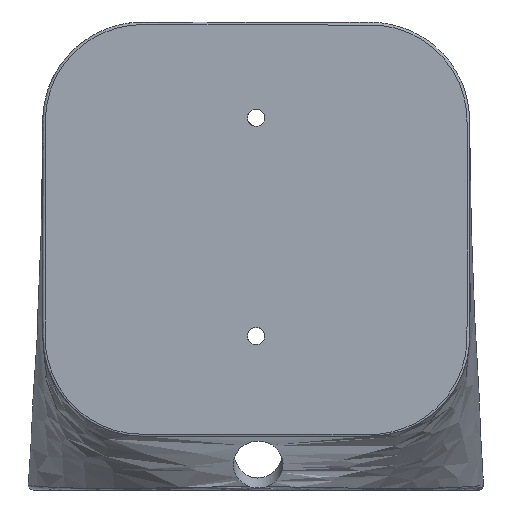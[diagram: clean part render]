
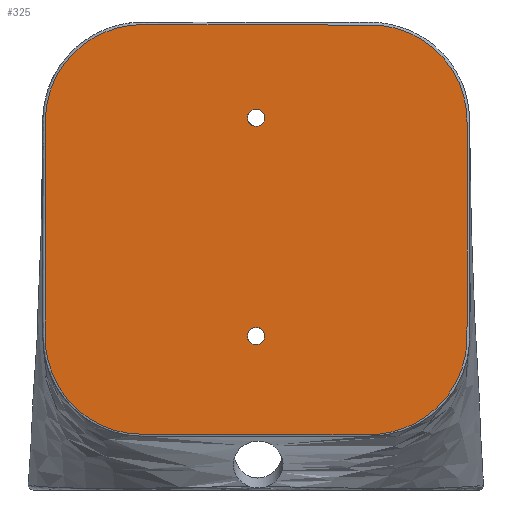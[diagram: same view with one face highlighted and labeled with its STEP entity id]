
A CAD part, front view. The second image highlights one B-rep face of the part: STEP entity #325.
In plain terms, the highlighted planar face has unit normal (0, -1, 0).
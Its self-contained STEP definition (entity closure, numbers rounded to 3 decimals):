
#20=FACE_BOUND('',#49,.T.);
#21=FACE_BOUND('',#50,.T.);
#28=PLANE('',#341);
#34=FACE_OUTER_BOUND('',#48,.T.);
#48=EDGE_LOOP('',(#260));
#49=EDGE_LOOP('',(#261));
#50=EDGE_LOOP('',(#262));
#86=B_SPLINE_CURVE_WITH_KNOTS('',3,(#850,#851,#852,#853,#854,#855,#856,
#857,#858,#859,#860,#861,#862,#863,#864,#865,#866,#867,#868,#869,#870,#871,
#872,#873,#874,#875,#876,#877,#878,#879,#880,#881,#882,#883,#884,#885,#886,
#887,#888),.UNSPECIFIED.,.T.,.F.,(4,2,1,1,2,1,2,1,1,2,1,1,1,1,1,2,1,1,1,
2,1,2,1,1,1,1,1,2,4),(-1.068,-0.995,-0.966,
-0.937,-0.893,-0.807,-0.742,
-0.713,-0.684,-0.641,-0.627,
-0.548,-0.529,-0.52,-0.508,
-0.498,-0.469,-0.441,-0.436,
-0.398,-0.268,-0.247,-0.232,
-0.207,-0.189,-0.159,-0.153,
-0.146,-0.073),.UNSPECIFIED.);
#117=CIRCLE('',#342,1.75);
#118=CIRCLE('',#343,1.75);
#123=VERTEX_POINT('',#629);
#153=VERTEX_POINT('',#1435);
#154=VERTEX_POINT('',#1437);
#174=EDGE_CURVE('',#123,#123,#86,.T.);
#197=EDGE_CURVE('',#153,#153,#117,.T.);
#198=EDGE_CURVE('',#154,#154,#118,.T.);
#260=ORIENTED_EDGE('',*,*,#174,.F.);
#261=ORIENTED_EDGE('',*,*,#197,.T.);
#262=ORIENTED_EDGE('',*,*,#198,.T.);
#325=ADVANCED_FACE('',(#34,#20,#21),#28,.F.);
#341=AXIS2_PLACEMENT_3D('',#1434,#364,#365);
#342=AXIS2_PLACEMENT_3D('',#1436,#366,#367);
#343=AXIS2_PLACEMENT_3D('',#1438,#368,#369);
#364=DIRECTION('center_axis',(0.,1.,0.));
#365=DIRECTION('ref_axis',(0.,0.,1.));
#366=DIRECTION('center_axis',(0.,1.,0.));
#367=DIRECTION('ref_axis',(1.,0.,0.));
#368=DIRECTION('center_axis',(0.,1.,0.));
#369=DIRECTION('ref_axis',(1.,0.,0.));
#629=CARTESIAN_POINT('',(0.515,0.,74.425));
#850=CARTESIAN_POINT('Ctrl Pts',(0.47,0.,
52.456));
#851=CARTESIAN_POINT('Ctrl Pts',(0.476,0.,
59.779));
#852=CARTESIAN_POINT('Ctrl Pts',(0.497,0.,
67.101));
#853=CARTESIAN_POINT('Ctrl Pts',(0.515,0.,
77.314));
#854=CARTESIAN_POINT('Ctrl Pts',(1.885,0.,
83.119));
#855=CARTESIAN_POINT('Ctrl Pts',(8.457,0.,91.211));
#856=CARTESIAN_POINT('Ctrl Pts',(15.669,0.,93.762));
#857=CARTESIAN_POINT('Ctrl Pts',(28.705,0.,
93.793));
#858=CARTESIAN_POINT('Ctrl Pts',(43.995,0.,
93.818));
#859=CARTESIAN_POINT('Ctrl Pts',(59.314,0.,
93.779));
#860=CARTESIAN_POINT('Ctrl Pts',(68.852,0.,
93.747));
#861=CARTESIAN_POINT('Ctrl Pts',(74.657,0.,
92.417));
#862=CARTESIAN_POINT('Ctrl Pts',(82.852,0.,
85.998));
#863=CARTESIAN_POINT('Ctrl Pts',(85.504,0.,78.784));
#864=CARTESIAN_POINT('Ctrl Pts',(85.495,0.,
72.99));
#865=CARTESIAN_POINT('Ctrl Pts',(85.519,0.,
63.47));
#866=CARTESIAN_POINT('Ctrl Pts',(85.541,0.,
51.985));
#867=CARTESIAN_POINT('Ctrl Pts',(85.52,0.,
41.026));
#868=CARTESIAN_POINT('Ctrl Pts',(85.506,0.,
36.918));
#869=CARTESIAN_POINT('Ctrl Pts',(85.491,0.,33.757));
#870=CARTESIAN_POINT('Ctrl Pts',(85.472,0.,
31.469));
#871=CARTESIAN_POINT('Ctrl Pts',(85.453,0.,
27.594));
#872=CARTESIAN_POINT('Ctrl Pts',(84.064,0.,
21.797));
#873=CARTESIAN_POINT('Ctrl Pts',(80.021,0.,
16.811));
#874=CARTESIAN_POINT('Ctrl Pts',(74.159,0.,
12.54));
#875=CARTESIAN_POINT('Ctrl Pts',(69.822,0.,
11.177));
#876=CARTESIAN_POINT('Ctrl Pts',(52.844,0.,11.077));
#877=CARTESIAN_POINT('Ctrl Pts',(37.537,0.,
11.057));
#878=CARTESIAN_POINT('Ctrl Pts',(22.234,0.,
11.174));
#879=CARTESIAN_POINT('Ctrl Pts',(18.554,0.,
11.201));
#880=CARTESIAN_POINT('Ctrl Pts',(14.61,0.,
11.65));
#881=CARTESIAN_POINT('Ctrl Pts',(9.203,0.,
14.052));
#882=CARTESIAN_POINT('Ctrl Pts',(3.724,0.,19.149));
#883=CARTESIAN_POINT('Ctrl Pts',(1.309,0.,
24.191));
#884=CARTESIAN_POINT('Ctrl Pts',(0.605,0.,
28.486));
#885=CARTESIAN_POINT('Ctrl Pts',(0.531,0.,
29.773));
#886=CARTESIAN_POINT('Ctrl Pts',(0.474,0.,
37.81));
#887=CARTESIAN_POINT('Ctrl Pts',(0.464,0.,
45.133));
#888=CARTESIAN_POINT('Ctrl Pts',(0.47,0.,
52.456));
#1434=CARTESIAN_POINT('Origin',(39.091,0.,
55.));
#1435=CARTESIAN_POINT('',(41.25,0.,31.));
#1436=CARTESIAN_POINT('Origin',(43.,0.,31.));
#1437=CARTESIAN_POINT('',(41.25,0.,75.));
#1438=CARTESIAN_POINT('Origin',(43.,0.,75.));
